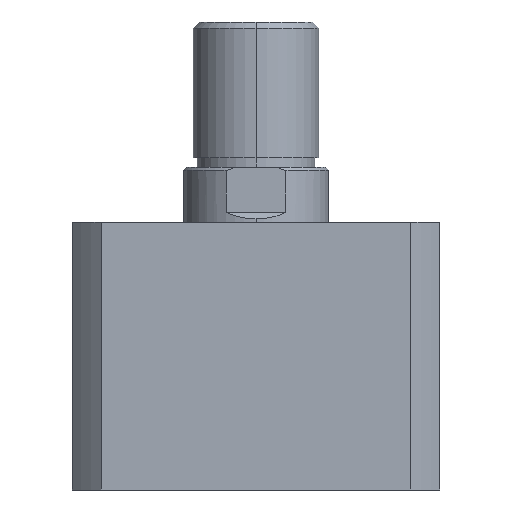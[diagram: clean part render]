
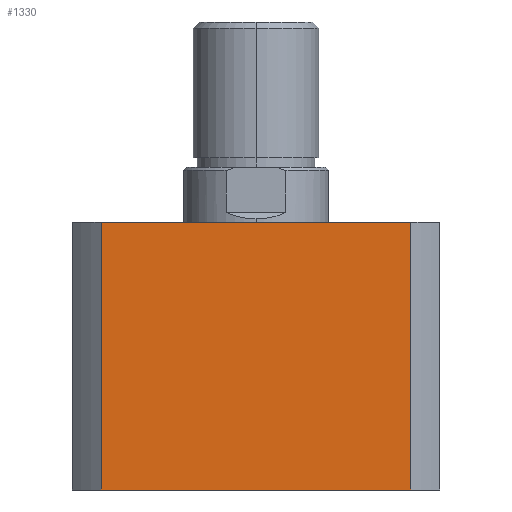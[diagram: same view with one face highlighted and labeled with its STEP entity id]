
A CAD part, left-side view. The second image highlights one B-rep face of the part: STEP entity #1330.
In plain terms, the highlighted planar face has unit normal (-1, 0, 0).
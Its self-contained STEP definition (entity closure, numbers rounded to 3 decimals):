
#201 = ORIENTED_EDGE ( 'NONE', *, *, #3383, .T. ) ;
#203 = ORIENTED_EDGE ( 'NONE', *, *, #963, .F. ) ;
#296 = DIRECTION ( 'NONE',  ( 0., -1., 0. ) ) ;
#297 = CARTESIAN_POINT ( 'NONE',  ( -57., 0., 83. ) ) ;
#479 = CARTESIAN_POINT ( 'NONE',  ( -57., -47.971, 83. ) ) ;
#482 = DIRECTION ( 'NONE',  ( 0., 0., -1. ) ) ;
#490 = CARTESIAN_POINT ( 'NONE',  ( -57., 47.971, 83. ) ) ;
#497 = DIRECTION ( 'NONE',  ( 0., 0., -1. ) ) ;
#810 = ORIENTED_EDGE ( 'NONE', *, *, #1009, .F. ) ;
#960 = EDGE_CURVE ( 'NONE', #1788, #1829, #4314, .T. ) ;
#963 = EDGE_CURVE ( 'NONE', #1791, #3440, #4319, .T. ) ;
#1009 = EDGE_CURVE ( 'NONE', #1788, #1791, #4382, .T. ) ;
#1330 = ADVANCED_FACE ( 'NONE', ( #3867 ), #3002, .F. ) ;
#1669 = EDGE_LOOP ( 'NONE', ( #201, #203, #810, #2238 ) ) ;
#1788 = VERTEX_POINT ( 'NONE', #2606 ) ;
#1791 = VERTEX_POINT ( 'NONE', #2603 ) ;
#1829 = VERTEX_POINT ( 'NONE', #5127 ) ;
#2238 = ORIENTED_EDGE ( 'NONE', *, *, #960, .T. ) ;
#2603 = CARTESIAN_POINT ( 'NONE',  ( -57., -47.971, 83. ) ) ;
#2606 = CARTESIAN_POINT ( 'NONE',  ( -57., 47.971, 83. ) ) ;
#2998 = DIRECTION ( 'NONE',  ( 0., 0., -1. ) ) ;
#2999 = DIRECTION ( 'NONE',  ( 1., 0., 0. ) ) ;
#3002 = PLANE ( 'NONE',  #3218 ) ;
#3009 = CARTESIAN_POINT ( 'NONE',  ( -57., 0., 83. ) ) ;
#3218 = AXIS2_PLACEMENT_3D ( 'NONE', #3009, #2999, #2998 ) ;
#3383 = EDGE_CURVE ( 'NONE', #1829, #3440, #4134, .T. ) ;
#3440 = VERTEX_POINT ( 'NONE', #3663 ) ;
#3663 = CARTESIAN_POINT ( 'NONE',  ( -57., -47.971, 0. ) ) ;
#3867 = FACE_OUTER_BOUND ( 'NONE', #1669, .T. ) ;
#4134 = LINE ( 'NONE', #4544, #4136 ) ;
#4136 = VECTOR ( 'NONE', #4543, 1000. ) ;
#4314 = LINE ( 'NONE', #490, #4316 ) ;
#4316 = VECTOR ( 'NONE', #497, 1000. ) ;
#4319 = LINE ( 'NONE', #479, #4321 ) ;
#4321 = VECTOR ( 'NONE', #482, 1000. ) ;
#4382 = LINE ( 'NONE', #297, #4385 ) ;
#4385 = VECTOR ( 'NONE', #296, 1000. ) ;
#4543 = DIRECTION ( 'NONE',  ( 0., -1., 0. ) ) ;
#4544 = CARTESIAN_POINT ( 'NONE',  ( -57., 0., 0. ) ) ;
#5127 = CARTESIAN_POINT ( 'NONE',  ( -57., 47.971, 0. ) ) ;
